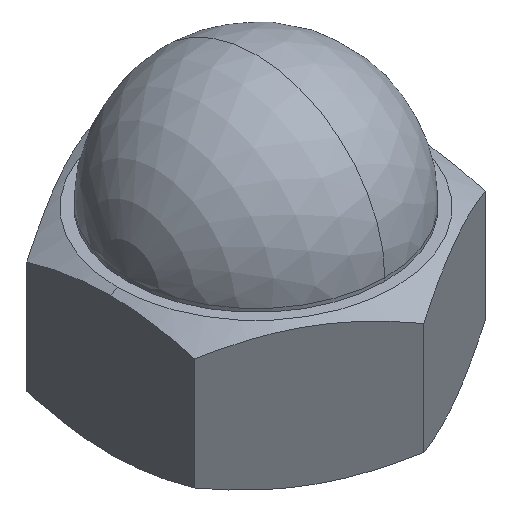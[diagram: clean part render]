
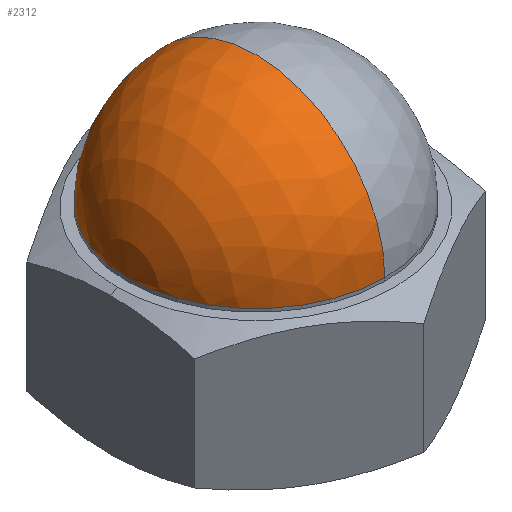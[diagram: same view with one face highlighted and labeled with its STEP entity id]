
A CAD part, isometric view. The second image highlights one B-rep face of the part: STEP entity #2312.
In plain terms, the highlighted spherical face has radius 9.75 mm.
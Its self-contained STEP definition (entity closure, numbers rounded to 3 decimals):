
#56 = DIRECTION ( 'NONE',  ( 0., 0., 1. ) ) ;
#289 = CARTESIAN_POINT ( 'NONE',  ( 0., 0., 11.25 ) ) ;
#499 = SPHERICAL_SURFACE ( 'NONE', #3894, 9.75 ) ;
#540 = CIRCLE ( 'NONE', #2948, 9.75 ) ;
#593 = CARTESIAN_POINT ( 'NONE',  ( 0., 0., 11.25 ) ) ;
#806 = DIRECTION ( 'NONE',  ( 1., 0., 0. ) ) ;
#933 = CARTESIAN_POINT ( 'NONE',  ( 0., -9.75, 11.25 ) ) ;
#1082 = VERTEX_POINT ( 'NONE', #4041 ) ;
#1291 = EDGE_CURVE ( 'NONE', #1082, #2782, #540, .T. ) ;
#1548 = CARTESIAN_POINT ( 'NONE',  ( 0., 9.75, 11.25 ) ) ;
#1588 = DIRECTION ( 'NONE',  ( 1., 0., 0. ) ) ;
#1854 = EDGE_CURVE ( 'NONE', #2782, #2504, #3462, .T. ) ;
#2074 = DIRECTION ( 'NONE',  ( -1., 0., 0. ) ) ;
#2085 = EDGE_LOOP ( 'NONE', ( #4134, #4006, #4113 ) ) ;
#2312 = ADVANCED_FACE ( 'NONE', ( #4148 ), #499, .T. ) ;
#2465 = CARTESIAN_POINT ( 'NONE',  ( 0., 0., 11.25 ) ) ;
#2504 = VERTEX_POINT ( 'NONE', #1548 ) ;
#2605 = CIRCLE ( 'NONE', #3029, 9.75 ) ;
#2614 = AXIS2_PLACEMENT_3D ( 'NONE', #593, #2895, #4246 ) ;
#2782 = VERTEX_POINT ( 'NONE', #933 ) ;
#2895 = DIRECTION ( 'NONE',  ( 0., 0., -1. ) ) ;
#2946 = DIRECTION ( 'NONE',  ( 0., 1., 0. ) ) ;
#2948 = AXIS2_PLACEMENT_3D ( 'NONE', #289, #1588, #2946 ) ;
#3029 = AXIS2_PLACEMENT_3D ( 'NONE', #3464, #2074, #56 ) ;
#3263 = EDGE_CURVE ( 'NONE', #1082, #2504, #2605, .T. ) ;
#3462 = CIRCLE ( 'NONE', #2614, 9.75 ) ;
#3464 = CARTESIAN_POINT ( 'NONE',  ( 0., 0., 11.25 ) ) ;
#3894 = AXIS2_PLACEMENT_3D ( 'NONE', #2465, #806, #4168 ) ;
#4006 = ORIENTED_EDGE ( 'NONE', *, *, #3263, .T. ) ;
#4041 = CARTESIAN_POINT ( 'NONE',  ( 0., 0., 21. ) ) ;
#4113 = ORIENTED_EDGE ( 'NONE', *, *, #1854, .F. ) ;
#4134 = ORIENTED_EDGE ( 'NONE', *, *, #1291, .F. ) ;
#4148 = FACE_OUTER_BOUND ( 'NONE', #2085, .T. ) ;
#4168 = DIRECTION ( 'NONE',  ( 0., 1., 0. ) ) ;
#4246 = DIRECTION ( 'NONE',  ( 0., 1., 0. ) ) ;
